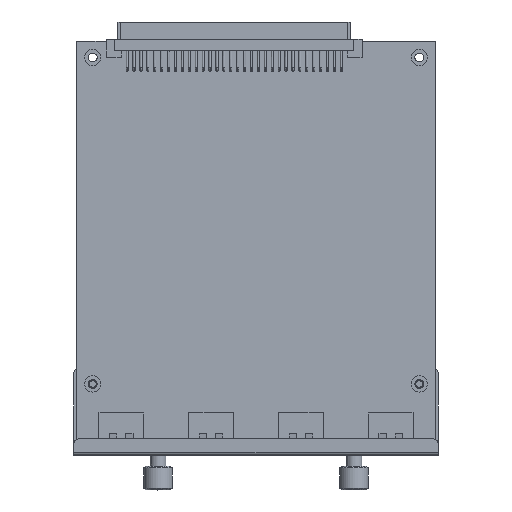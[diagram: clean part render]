
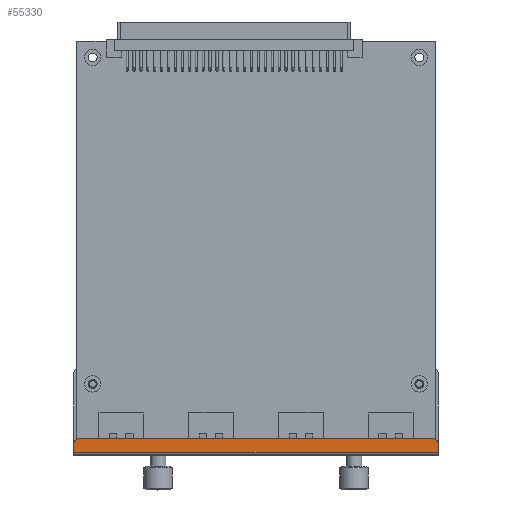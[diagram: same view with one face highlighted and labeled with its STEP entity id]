
A CAD part, top view. The second image highlights one B-rep face of the part: STEP entity #55330.
In plain terms, the highlighted planar face has unit normal (0, 0, 1).
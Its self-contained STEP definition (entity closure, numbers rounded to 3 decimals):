
#53342=DIRECTION('',(0.,1.,0.));
#53343=VECTOR('',#53342,3.);
#53344=CARTESIAN_POINT('',(-146.267,-204.467,
35.45));
#53345=LINE('',#53344,#53343);
#53350=DIRECTION('',(-1.,0.,0.));
#53351=VECTOR('',#53350,134.);
#53352=CARTESIAN_POINT('',(-12.267,-204.467,
35.45));
#53353=LINE('',#53352,#53351);
#53549=CARTESIAN_POINT('',(-14.267,-201.467,
35.45));
#53550=DIRECTION('',(0.,0.,1.));
#53551=DIRECTION('',(1.,0.,0.));
#53552=AXIS2_PLACEMENT_3D('',#53549,#53550,#53551);
#53554=DIRECTION('',(0.,1.,0.));
#53555=VECTOR('',#53554,3.);
#53556=CARTESIAN_POINT('',(-12.267,-204.467,
35.45));
#53557=LINE('',#53556,#53555);
#53558=CARTESIAN_POINT('',(-144.267,-201.467,
35.45));
#53559=DIRECTION('',(0.,0.,1.));
#53560=DIRECTION('',(0.,1.,0.));
#53561=AXIS2_PLACEMENT_3D('',#53558,#53559,#53560);
#53563=DIRECTION('',(-1.,0.,0.));
#53564=VECTOR('',#53563,130.);
#53565=CARTESIAN_POINT('',(-14.267,-199.467,
35.45));
#53566=LINE('',#53565,#53564);
#54873=CARTESIAN_POINT('',(-146.267,-204.467,
35.45));
#54874=VERTEX_POINT('',#54873);
#54879=CARTESIAN_POINT('',(-12.267,-204.467,
35.45));
#54880=VERTEX_POINT('',#54879);
#54885=CARTESIAN_POINT('',(-146.267,-201.467,
35.45));
#54886=VERTEX_POINT('',#54885);
#54887=CARTESIAN_POINT('',(-12.267,-201.467,
35.45));
#54888=VERTEX_POINT('',#54887);
#54897=CARTESIAN_POINT('',(-144.267,-199.467,
35.45));
#54898=VERTEX_POINT('',#54897);
#54899=CARTESIAN_POINT('',(-14.267,-199.467,
35.45));
#54900=VERTEX_POINT('',#54899);
#55316=CARTESIAN_POINT('',(-79.267,-201.967,
35.45));
#55317=DIRECTION('',(0.,0.,1.));
#55318=DIRECTION('',(0.,-1.,0.));
#55319=AXIS2_PLACEMENT_3D('',#55316,#55317,#55318);
#55320=PLANE('',#55319);
#55321=ORIENTED_EDGE('',*,*,#55309,.F.);
#55322=ORIENTED_EDGE('',*,*,#55263,.F.);
#55323=ORIENTED_EDGE('',*,*,#55079,.T.);
#55324=ORIENTED_EDGE('',*,*,#55066,.T.);
#55326=ORIENTED_EDGE('',*,*,#55325,.F.);
#55327=ORIENTED_EDGE('',*,*,#55295,.F.);
#55328=EDGE_LOOP('',(#55321,#55322,#55323,#55324,#55326,#55327));
#55329=FACE_OUTER_BOUND('',#55328,.F.);
#55330=ADVANCED_FACE('',(#55329),#55320,.T.);
#53553=CIRCLE('',#53552,2.);
#53562=CIRCLE('',#53561,2.);
#55066=EDGE_CURVE('',#54874,#54886,#53345,.T.);
#55079=EDGE_CURVE('',#54880,#54874,#53353,.T.);
#55263=EDGE_CURVE('',#54880,#54888,#53557,.T.);
#55295=EDGE_CURVE('',#54900,#54898,#53566,.T.);
#55309=EDGE_CURVE('',#54888,#54900,#53553,.T.);
#55325=EDGE_CURVE('',#54898,#54886,#53562,.T.);
